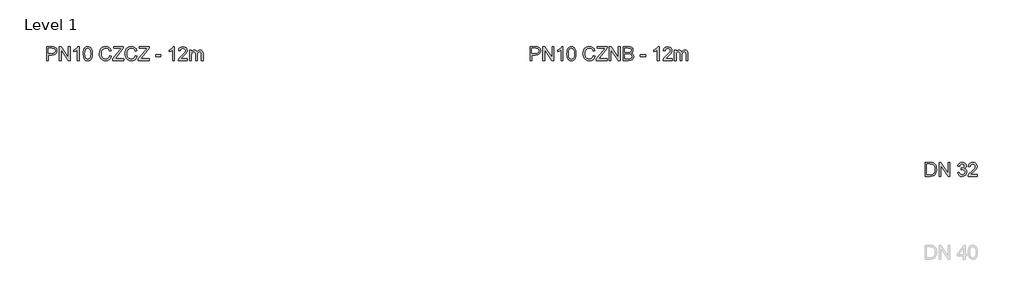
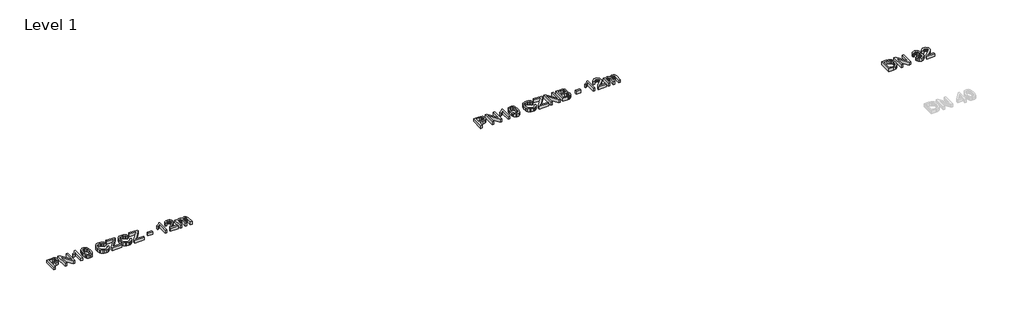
# One storey, part 17 of 17: 3 proxies.
"""IFC4 building model written with IfcOpenShell, lengths in millimetres."""

from ifc_helpers import new_model, si_unit, origin, origin_with_axes, place, context, project, spatial, polyline, outline, extrude, element, save

model = new_model("IFC4")

# Units and contexts
model_context = context("Model", 3, world=origin())
ifc_project = project(units=[si_unit("LENGTHUNIT", "METRE", prefix="MILLI")], contexts=[model_context])

# Site, building, storey
site = spatial("IfcSite", under=ifc_project)
building = spatial("IfcBuilding", under=site)
storey = spatial("IfcBuildingStorey", under=building, Name="Level 1", Elevation=0.0)

# Proxies
placement = place(None, origin())
element("IfcBuildingElementProxy", 1, Name="200mm Arial", ObjectType="200mm Arial", at=placement, inside=storey, context=model_context, shape_type="SweptSolid", body=[
    extrude(outline(polyline([(19829.3512364, 2161.9491293), (19829.3512364, 2362.8617496), (19903.8105522, 2362.8617496), (19933.829723, 2360.9487633), (19958.232562, 2351.5555097), (19967.1046495, 2343.2291138), (19974.0514878, 2332.1313403), (19978.5396481, 2319.0408726), (19980.0357016, 2304.7363944), (19975.995131, 2281.0570566), (19963.8734193, 2261.326319), (19954.1659331, 2253.5578775), (19941.205757, 2248.0089907), (19905.5273348, 2243.5698813), (19854.4653139, 2243.5698813), (19854.4653139, 2161.9491293), (19829.3512364, 2161.9491293)]), holes=[polyline([(19854.4653139, 2268.6839589), (19906.9988628, 2268.6839589), (19929.2679863, 2270.9893527), (19943.9832661, 2277.9055342), (19952.1870346, 2289.0033077), (19954.9216241, 2303.8534776), (19953.3090746, 2315.1351921), (19948.4714264, 2324.6510731), (19941.0095533, 2331.8125092), (19931.5243292, 2336.0308895), (19906.4102516, 2337.7476721), (19854.4653139, 2337.7476721), (19854.4653139, 2268.6839589)])]), origin_with_axes(), (0.0, 0.0, 1.0), 50.0),
    extrude(outline(polyline([(20014.5675582, 2161.9491293), (20014.5675582, 2362.8617496), (20041.4474693, 2362.8617496), (20146.4164653, 2203.6914731), (20146.4164653, 2362.8617496), (20171.5305428, 2362.8617496), (20171.5305428, 2161.9491293), (20144.6506317, 2161.9491293), (20039.6816357, 2321.1684569), (20039.6816357, 2161.9491293), (20014.5675582, 2161.9491293)])), origin_with_axes(), (0.0, 0.0, 1.0), 50.0),
    extrude(outline(polyline([(20300.2401902, 2161.9491293), (20275.1261127, 2161.9491293), (20275.1261127, 2318.5197065), (20251.3364103, 2301.5726092), (20224.8979576, 2288.8929431), (20224.8979576, 2312.6335946), (20261.7106826, 2336.1289913), (20275.181295, 2349.7038369), (20284.0533824, 2362.8617496), (20300.2401902, 2362.8617496), (20300.2401902, 2161.9491293)])), origin_with_axes(), (0.0, 0.0, 1.0), 50.0),
    extrude(outline(polyline([(20359.8861243, 2260.7867587), (20361.7316657, 2292.9457765), (20367.2682897, 2318.5932829), (20376.4408141, 2338.1216855), (20389.1940566, 2351.9233917), (20405.6199877, 2360.1271601), (20425.8105779, 2362.8617496), (20441.2861471, 2361.2430689), (20455.1430356, 2356.3870265), (20466.7313185, 2348.483695), (20475.4010708, 2337.7231466), (20487.1732947, 2307.9982814), (20491.7350314, 2260.7867587), (20489.9078842, 2228.811682), (20484.4264424, 2203.2254892), (20475.3091003, 2183.6786925), (20462.5742519, 2169.821804), (20446.1115327, 2161.5628532), (20425.8105779, 2158.8098696), (20399.7154817, 2163.5923356), (20379.8989049, 2177.9397334), (20371.1433134, 2193.0688805), (20364.8893195, 2211.919767), (20359.8861243, 2260.7867587)]), holes=[polyline([(20385.0002019, 2260.8358096), (20387.9432578, 2221.3314147), (20396.7724257, 2198.4675487), (20409.9180757, 2187.5598476), (20425.8105779, 2183.9239472), (20441.7030801, 2187.5721103), (20454.84873, 2198.5165997), (20463.6778979, 2221.3927284), (20466.6209539, 2260.8358096), (20463.7759998, 2299.4511564), (20455.2411375, 2322.492832), (20442.120013, 2333.9339621), (20425.5162723, 2337.7476721), (20409.7954484, 2334.3876832), (20397.1648332, 2324.3077165), (20388.0413597, 2299.8313011), (20385.0002019, 2260.8358096)])]), origin_with_axes(), (0.0, 0.0, 1.0), 50.0),
    extrude(outline(polyline([(20742.8758068, 2233.3672873), (20767.9898843, 2226.8925642), (20756.4016015, 2197.6275515), (20738.2159682, 2176.2474762), (20714.328164, 2163.1692713), (20685.6333683, 2158.8098696), (20656.5032457, 2162.1085449), (20633.3695996, 2172.0045705), (20615.6376874, 2188.1545901), (20602.7127666, 2210.2152471), (20594.8216978, 2236.1509278), (20592.1913416, 2263.9260184), (20595.1650544, 2293.221688), (20604.0861927, 2318.5197065), (20618.4887729, 2339.016865), (20637.9068108, 2353.9099544), (20660.9362237, 2362.9782456), (20686.1729286, 2366.0010093), (20713.7088959, 2362.0891975), (20736.4746601, 2350.3537618), (20753.7589825, 2331.5182037), (20764.8506246, 2306.3060242), (20739.7365471, 2300.3218105), (20731.0300065, 2318.6362025), (20719.1351554, 2331.1993726), (20703.9048408, 2338.465042), (20685.1919099, 2340.8869318), (20663.6217623, 2338.2013932), (20645.9021129, 2330.1447775), (20632.4560259, 2317.5632133), (20623.7065658, 2301.3028291), (20618.9057058, 2282.9209921), (20617.3054191, 2263.9750693), (20619.2000114, 2240.7739782), (20624.8837882, 2220.7121467), (20634.5713474, 2204.5559957), (20648.4772868, 2193.0719461), (20665.1484726, 2186.2109469), (20683.1317708, 2183.9239472), (20704.0949131, 2187.0386814), (20721.5631765, 2196.3828841), (20734.7517461, 2211.8584534), (20742.8758068, 2233.3672873)])), origin_with_axes(), (0.0, 0.0, 1.0), 50.0),
    extrude(outline(polyline([(20786.8254425, 2161.9491293), (20786.8254425, 2187.9951746), (20889.5871465, 2313.810817), (20909.1094177, 2337.7476721), (20799.3824813, 2337.7476721), (20799.3824813, 2362.8617496), (20940.6491674, 2362.8617496), (20940.6491674, 2337.7476721), (20828.1753787, 2200.061704), (20817.5803773, 2187.0632069), (20943.7884271, 2187.0632069), (20943.7884271, 2161.9491293), (20786.8254425, 2161.9491293)])), origin_with_axes(), (0.0, 0.0, 1.0), 50.0),
    extrude(outline(polyline([(20972.0417643, 2161.9491293), (20972.0417643, 2362.8617496), (20998.9216754, 2362.8617496), (21103.8906714, 2203.6914731), (21103.8906714, 2362.8617496), (21129.0047489, 2362.8617496), (21129.0047489, 2161.9491293), (21102.1248378, 2161.9491293), (20997.1558419, 2321.1684569), (20997.1558419, 2161.9491293), (20972.0417643, 2161.9491293)])), origin_with_axes(), (0.0, 0.0, 1.0), 50.0),
    extrude(outline(polyline([(21172.9543846, 2161.9491293), (21172.9543846, 2362.8617496), (21249.6209924, 2362.8617496), (21270.7067621, 2361.3840903), (21287.1694814, 2356.9511123), (21299.7878338, 2349.4524509), (21309.340503, 2338.7777417), (21315.3553736, 2326.2207029), (21317.3603305, 2313.075053), (21315.6742047, 2300.9778667), (21310.6158272, 2289.6041817), (21302.14841, 2279.6529737), (21290.2351647, 2271.8232186), (21304.4660665, 2264.3920023), (21314.9813602, 2253.0857623), (21321.4744774, 2238.6525253), (21323.6388498, 2221.8403182), (21317.7282125, 2194.8377797), (21303.086509, 2175.6098141), (21281.2343185, 2165.4072201), (21249.0323812, 2161.9491293), (21172.9543846, 2161.9491293)]), holes=[polyline([(21198.0684622, 2187.0632069), (21249.5719415, 2187.0632069), (21268.2112959, 2188.0442255), (21283.9811708, 2193.5134045), (21294.4290194, 2204.6724917), (21298.5247723, 2221.5950635), (21293.7177809, 2241.1173347), (21287.4208674, 2248.1745376), (21278.1441098, 2252.7669312), (21247.1193948, 2256.1269201), (21198.0684622, 2256.1269201), (21198.0684622, 2187.0632069)]), polyline([(21198.0684622, 2281.2409976), (21243.9310842, 2281.2409976), (21270.7128935, 2283.3992387), (21286.8261249, 2292.6943904), (21292.2462529, 2309.0528765), (21287.1940069, 2325.435888), (21272.7239817, 2335.1234472), (21240.448468, 2337.7476721), (21198.0684622, 2337.7476721), (21198.0684622, 2281.2409976)])]), origin_with_axes(), (0.0, 0.0, 1.0), 50.0),
    extrude(outline(polyline([(21420.9559003, 2221.5950635), (21420.9559003, 2246.709141), (21499.4373926, 2246.709141), (21499.4373926, 2221.5950635), (21420.9559003, 2221.5950635)])), origin_with_axes(), (0.0, 0.0, 1.0), 50.0),
    extrude(outline(polyline([(21694.0714935, 2161.9491293), (21668.957416, 2161.9491293), (21668.957416, 2318.5197065), (21645.1677136, 2301.5726092), (21618.7292609, 2288.8929431), (21618.7292609, 2312.6335946), (21655.5419859, 2336.1289913), (21669.0125983, 2349.7038369), (21677.8846857, 2362.8617496), (21694.0714935, 2362.8617496), (21694.0714935, 2161.9491293)])), origin_with_axes(), (0.0, 0.0, 1.0), 50.0),
    extrude(outline(polyline([(21882.4270751, 2187.0632069), (21882.4270751, 2161.9491293), (21750.578168, 2161.9491293), (21753.2759693, 2179.2641086), (21768.5308093, 2205.9232905), (21799.9724572, 2235.0350191), (21843.3334817, 2276.8754646), (21851.4636738, 2291.2964388), (21854.1737378, 2305.3250056), (21851.616958, 2317.9004385), (21843.9466184, 2328.3544185), (21832.1560004, 2335.3993587), (21817.2383855, 2337.7476721), (21801.5727439, 2335.454541), (21789.4019812, 2328.5751477), (21781.5477006, 2317.6490524), (21778.8315052, 2303.2158155), (21753.7174277, 2306.3550752), (21759.8058747, 2330.6475496), (21772.9699188, 2348.3917245), (21792.5228468, 2359.2442434), (21817.7779458, 2362.8617496), (21843.2169857, 2358.8395732), (21862.7331256, 2346.7730437), (21875.1491429, 2328.746826), (21879.2878154, 2306.8455845), (21874.8241805, 2283.0313567), (21859.9862733, 2258.4077885), (21824.0074142, 2223.9985592), (21795.1164149, 2199.8409748), (21783.7856494, 2187.0632069), (21882.4270751, 2187.0632069)])), origin_with_axes(), (0.0, 0.0, 1.0), 50.0),
    extrude(outline(polyline([(21913.819672, 2161.9491293), (21913.819672, 2309.4943349), (21938.9337495, 2309.4943349), (21938.9337495, 2285.2141232), (21946.4875931, 2296.367079), (21956.1996778, 2305.1042764), (21967.7389097, 2310.751265), (21980.7741951, 2312.6335946), (21994.7414482, 2310.7144768), (22005.9373236, 2304.9571236), (22014.3005076, 2295.7416796), (22019.7696866, 2283.4482896), (22028.9238169, 2296.2168605), (22039.3655342, 2305.3372683), (22051.0948385, 2310.809513), (22064.1117297, 2312.6335946), (22082.9902075, 2309.5985681), (22096.9513292, 2300.4934887), (22105.578162, 2285.0731018), (22108.4537729, 2263.0921525), (22108.4537729, 2161.9491293), (22083.3396954, 2161.9491293), (22083.3396954, 2252.3009474), (22081.009776, 2273.2702211), (22072.5730156, 2283.5954424), (22058.2256178, 2287.519517), (22044.6201154, 2285.0056567), (22033.5284732, 2277.4640758), (22026.1524392, 2264.3797395), (22023.6937612, 2245.237613), (22023.6937612, 2161.9491293), (21998.5796837, 2161.9491293), (21998.5796837, 2255.0968505), (21997.1265498, 2269.2970955), (21992.7671481, 2279.4261131), (21985.0968085, 2285.4961661), (21973.7108608, 2287.519517), (21955.1205573, 2282.1239144), (21947.7629174, 2275.4775131), (21942.7597223, 2266.3295141), (21938.9337495, 2236.3593942), (21938.9337495, 2161.9491293), (21913.819672, 2161.9491293)])), origin_with_axes(), (0.0, 0.0, 1.0), 50.0),
])
element("IfcBuildingElementProxy", 2, Name="200mm Arial", ObjectType="200mm Arial", at=placement, inside=storey, context=model_context, shape_type="SweptSolid", body=[
    extrude(outline(polyline([(12837.1993856, 2161.9491293), (12837.1993856, 2362.8617496), (12911.6587014, 2362.8617496), (12941.6778722, 2360.9487633), (12966.0807112, 2351.5555097), (12974.9527987, 2343.2291138), (12981.899637, 2332.1313403), (12986.3877974, 2319.0408726), (12987.8838508, 2304.7363944), (12983.8432802, 2281.0570566), (12971.7215685, 2261.326319), (12962.0140824, 2253.5578775), (12949.0539062, 2248.0089907), (12913.3754841, 2243.5698813), (12862.3134631, 2243.5698813), (12862.3134631, 2161.9491293), (12837.1993856, 2161.9491293)]), holes=[polyline([(12862.3134631, 2268.6839589), (12914.847012, 2268.6839589), (12937.1161355, 2270.9893527), (12951.8314153, 2277.9055342), (12960.0351838, 2289.0033077), (12962.7697733, 2303.8534776), (12961.1572239, 2315.1351921), (12956.3195756, 2324.6510731), (12948.8577025, 2331.8125092), (12939.3724784, 2336.0308895), (12914.2584009, 2337.7476721), (12862.3134631, 2337.7476721), (12862.3134631, 2268.6839589)])]), origin_with_axes(), (0.0, 0.0, 1.0), 50.0),
    extrude(outline(polyline([(13022.4157074, 2161.9491293), (13022.4157074, 2362.8617496), (13049.2956186, 2362.8617496), (13154.2646145, 2203.6914731), (13154.2646145, 2362.8617496), (13179.378692, 2362.8617496), (13179.378692, 2161.9491293), (13152.4987809, 2161.9491293), (13047.529785, 2321.1684569), (13047.529785, 2161.9491293), (13022.4157074, 2161.9491293)])), origin_with_axes(), (0.0, 0.0, 1.0), 50.0),
    extrude(outline(polyline([(13308.0883394, 2161.9491293), (13282.9742619, 2161.9491293), (13282.9742619, 2318.5197065), (13259.1845595, 2301.5726092), (13232.7461068, 2288.8929431), (13232.7461068, 2312.6335946), (13269.5588318, 2336.1289913), (13283.0294442, 2349.7038369), (13291.9015316, 2362.8617496), (13308.0883394, 2362.8617496), (13308.0883394, 2161.9491293)])), origin_with_axes(), (0.0, 0.0, 1.0), 50.0),
    extrude(outline(polyline([(13367.7342736, 2260.7867587), (13369.5798149, 2292.9457765), (13375.1164389, 2318.5932829), (13384.2889634, 2338.1216855), (13397.0422059, 2351.9233917), (13413.4681369, 2360.1271601), (13433.6587271, 2362.8617496), (13449.1342964, 2361.2430689), (13462.9911849, 2356.3870265), (13474.5794677, 2348.483695), (13483.2492201, 2337.7231466), (13495.0214439, 2307.9982814), (13499.5831806, 2260.7867587), (13497.7560334, 2228.811682), (13492.2745917, 2203.2254892), (13483.1572496, 2183.6786925), (13470.4224012, 2169.821804), (13453.9596819, 2161.5628532), (13433.6587271, 2158.8098696), (13407.5636309, 2163.5923356), (13387.7470541, 2177.9397334), (13378.9914626, 2193.0688805), (13372.7374687, 2211.919767), (13367.7342736, 2260.7867587)]), holes=[polyline([(13392.8483511, 2260.8358096), (13395.7914071, 2221.3314147), (13404.620575, 2198.4675487), (13417.7662249, 2187.5598476), (13433.6587271, 2183.9239472), (13449.5512293, 2187.5721103), (13462.6968793, 2198.5165997), (13471.5260472, 2221.3927284), (13474.4691031, 2260.8358096), (13471.624149, 2299.4511564), (13463.0892867, 2322.492832), (13449.9681622, 2333.9339621), (13433.3644215, 2337.7476721), (13417.6435976, 2334.3876832), (13405.0129824, 2324.3077165), (13395.8895089, 2299.8313011), (13392.8483511, 2260.8358096)])]), origin_with_axes(), (0.0, 0.0, 1.0), 50.0),
    extrude(outline(polyline([(13750.723956, 2233.3672873), (13775.8380336, 2226.8925642), (13764.2497507, 2197.6275515), (13746.0641174, 2176.2474762), (13722.1763132, 2163.1692713), (13693.4815176, 2158.8098696), (13664.3513949, 2162.1085449), (13641.2177488, 2172.0045705), (13623.4858366, 2188.1545901), (13610.5609159, 2210.2152471), (13602.6698471, 2236.1509278), (13600.0394908, 2263.9260184), (13603.0132036, 2293.221688), (13611.934342, 2318.5197065), (13626.3369221, 2339.016865), (13645.7549601, 2353.9099544), (13668.784373, 2362.9782456), (13694.0210778, 2366.0010093), (13721.5570452, 2362.0891975), (13744.3228093, 2350.3537618), (13761.6071317, 2331.5182037), (13772.6987739, 2306.3060242), (13747.5846963, 2300.3218105), (13738.8781558, 2318.6362025), (13726.9833046, 2331.1993726), (13711.75299, 2338.465042), (13693.0400592, 2340.8869318), (13671.4699115, 2338.2013932), (13653.7502621, 2330.1447775), (13640.3041752, 2317.5632133), (13631.5547151, 2301.3028291), (13626.753855, 2282.9209921), (13625.1535683, 2263.9750693), (13627.0481606, 2240.7739782), (13632.7319374, 2220.7121467), (13642.4194966, 2204.5559957), (13656.3254361, 2193.0719461), (13672.9966218, 2186.2109469), (13690.97992, 2183.9239472), (13711.9430624, 2187.0386814), (13729.4113258, 2196.3828841), (13742.5998953, 2211.8584534), (13750.723956, 2233.3672873)])), origin_with_axes(), (0.0, 0.0, 1.0), 50.0),
    extrude(outline(polyline([(13794.6735917, 2161.9491293), (13794.6735917, 2187.9951746), (13897.4352957, 2313.810817), (13916.9575669, 2337.7476721), (13807.2306305, 2337.7476721), (13807.2306305, 2362.8617496), (13948.4973166, 2362.8617496), (13948.4973166, 2337.7476721), (13836.023528, 2200.061704), (13825.4285265, 2187.0632069), (13951.6365763, 2187.0632069), (13951.6365763, 2161.9491293), (13794.6735917, 2161.9491293)])), origin_with_axes(), (0.0, 0.0, 1.0), 50.0),
    extrude(outline(polyline([(14121.1565997, 2233.3672873), (14146.2706772, 2226.8925642), (14134.6823944, 2197.6275515), (14116.4967611, 2176.2474762), (14092.6089569, 2163.1692713), (14063.9141613, 2158.8098696), (14034.7840386, 2162.1085449), (14011.6503925, 2172.0045705), (13993.9184803, 2188.1545901), (13980.9935595, 2210.2152471), (13973.1024907, 2236.1509278), (13970.4721345, 2263.9260184), (13973.4458473, 2293.221688), (13982.3669857, 2318.5197065), (13996.7695658, 2339.016865), (14016.1876037, 2353.9099544), (14039.2170166, 2362.9782456), (14064.4537215, 2366.0010093), (14091.9896888, 2362.0891975), (14114.755453, 2350.3537618), (14132.0397754, 2331.5182037), (14143.1314175, 2306.3060242), (14118.01734, 2300.3218105), (14109.3107995, 2318.6362025), (14097.4159483, 2331.1993726), (14082.1856337, 2338.465042), (14063.4727029, 2340.8869318), (14041.9025552, 2338.2013932), (14024.1829058, 2330.1447775), (14010.7368188, 2317.5632133), (14001.9873587, 2301.3028291), (13997.1864987, 2282.9209921), (13995.586212, 2263.9750693), (13997.4808043, 2240.7739782), (14003.1645811, 2220.7121467), (14012.8521403, 2204.5559957), (14026.7580797, 2193.0719461), (14043.4292655, 2186.2109469), (14061.4125637, 2183.9239472), (14082.375706, 2187.0386814), (14099.8439694, 2196.3828841), (14113.032539, 2211.8584534), (14121.1565997, 2233.3672873)])), origin_with_axes(), (0.0, 0.0, 1.0), 50.0),
    extrude(outline(polyline([(14165.1062354, 2161.9491293), (14165.1062354, 2187.9951746), (14267.8679394, 2313.810817), (14287.3902106, 2337.7476721), (14177.6632742, 2337.7476721), (14177.6632742, 2362.8617496), (14318.9299603, 2362.8617496), (14318.9299603, 2337.7476721), (14206.4561716, 2200.061704), (14195.8611702, 2187.0632069), (14322.06922, 2187.0632069), (14322.06922, 2161.9491293), (14165.1062354, 2161.9491293)])), origin_with_axes(), (0.0, 0.0, 1.0), 50.0),
    extrude(outline(polyline([(14413.1077511, 2221.5950635), (14413.1077511, 2246.709141), (14491.5892434, 2246.709141), (14491.5892434, 2221.5950635), (14413.1077511, 2221.5950635)])), origin_with_axes(), (0.0, 0.0, 1.0), 50.0),
    extrude(outline(polyline([(14686.2233443, 2161.9491293), (14661.1092668, 2161.9491293), (14661.1092668, 2318.5197065), (14637.3195644, 2301.5726092), (14610.8811117, 2288.8929431), (14610.8811117, 2312.6335946), (14647.6938367, 2336.1289913), (14661.1644491, 2349.7038369), (14670.0365365, 2362.8617496), (14686.2233443, 2362.8617496), (14686.2233443, 2161.9491293)])), origin_with_axes(), (0.0, 0.0, 1.0), 50.0),
    extrude(outline(polyline([(14874.5789258, 2187.0632069), (14874.5789258, 2161.9491293), (14742.7300188, 2161.9491293), (14745.42782, 2179.2641086), (14760.6826601, 2205.9232905), (14792.124308, 2235.0350191), (14835.4853325, 2276.8754646), (14843.6155246, 2291.2964388), (14846.3255886, 2305.3250056), (14843.7688087, 2317.9004385), (14836.0984691, 2328.3544185), (14824.3078512, 2335.3993587), (14809.3902363, 2337.7476721), (14793.7245946, 2335.454541), (14781.553832, 2328.5751477), (14773.6995514, 2317.6490524), (14770.983356, 2303.2158155), (14745.8692784, 2306.3550752), (14751.9577255, 2330.6475496), (14765.1217695, 2348.3917245), (14784.6746976, 2359.2442434), (14809.9297965, 2362.8617496), (14835.3688365, 2358.8395732), (14854.8849763, 2346.7730437), (14867.3009937, 2328.746826), (14871.4396661, 2306.8455845), (14866.9760313, 2283.0313567), (14852.1381241, 2258.4077885), (14816.159265, 2223.9985592), (14787.2682656, 2199.8409748), (14775.9375002, 2187.0632069), (14874.5789258, 2187.0632069)])), origin_with_axes(), (0.0, 0.0, 1.0), 50.0),
    extrude(outline(polyline([(14905.9715227, 2161.9491293), (14905.9715227, 2309.4943349), (14931.0856003, 2309.4943349), (14931.0856003, 2285.2141232), (14938.6394439, 2296.367079), (14948.3515286, 2305.1042764), (14959.8907605, 2310.751265), (14972.9260459, 2312.6335946), (14986.893299, 2310.7144768), (14998.0891743, 2304.9571236), (15006.4523584, 2295.7416796), (15011.9215374, 2283.4482896), (15021.0756677, 2296.2168605), (15031.517385, 2305.3372683), (15043.2466892, 2310.809513), (15056.2635805, 2312.6335946), (15075.1420582, 2309.5985681), (15089.1031799, 2300.4934887), (15097.7300127, 2285.0731018), (15100.6056237, 2263.0921525), (15100.6056237, 2161.9491293), (15075.4915461, 2161.9491293), (15075.4915461, 2252.3009474), (15073.1616268, 2273.2702211), (15064.7248664, 2283.5954424), (15050.3774686, 2287.519517), (15036.7719661, 2285.0056567), (15025.680324, 2277.4640758), (15018.30429, 2264.3797395), (15015.845612, 2245.237613), (15015.845612, 2161.9491293), (14990.7315344, 2161.9491293), (14990.7315344, 2255.0968505), (14989.2784006, 2269.2970955), (14984.9189989, 2279.4261131), (14977.2486593, 2285.4961661), (14965.8627116, 2287.519517), (14947.2724081, 2282.1239144), (14939.9147682, 2275.4775131), (14934.911573, 2266.3295141), (14931.0856003, 2236.3593942), (14931.0856003, 2161.9491293), (14905.9715227, 2161.9491293)])), origin_with_axes(), (0.0, 0.0, 1.0), 50.0),
])
element("IfcBuildingElementProxy", 3, Name="200mm Arial", ObjectType="200mm Arial", at=placement, inside=storey, context=model_context, shape_type="SweptSolid", body=[
    extrude(outline(polyline([(25539.3076926, 486.050427), (25539.3076926, 686.9630473), (25608.6166605, 686.9630473), (25644.4728923, 684.0690423), (25660.4880218, 678.4894987), (25674.0015538, 669.697119), (25687.8952305, 654.393228), (25697.7912562, 635.3614662), (25703.7141563, 612.9697154), (25705.6884563, 587.5858577), (25700.3419047, 547.0452618), (25686.6076435, 517.7863805), (25668.2625947, 499.563959), (25644.2521631, 489.4839923), (25611.9521239, 486.050427), (25539.3076926, 486.050427)]), holes=[polyline([(25564.4217702, 511.1645046), (25608.8619152, 511.1645046), (25641.1864798, 514.7942736), (25659.8258342, 525.0459185), (25668.5507689, 535.9168315), (25675.1051998, 549.9883178), (25679.207084, 567.3216911), (25680.5743788, 587.9782652), (25677.8949716, 615.3486856), (25669.85675, 635.5576699), (25657.9802929, 649.4390838), (25643.7861793, 657.8267933), (25608.1752021, 661.8489698), (25564.4217702, 661.8489698), (25564.4217702, 511.1645046)])]), origin_with_axes(), (0.0, 0.0, 1.0), 50.0),
    extrude(outline(polyline([(25740.2203129, 486.050427), (25740.2203129, 686.9630473), (25767.100224, 686.9630473), (25872.06922, 527.7927708), (25872.06922, 686.9630473), (25897.1832975, 686.9630473), (25897.1832975, 486.050427), (25870.3033864, 486.050427), (25765.3343905, 645.2697546), (25765.3343905, 486.050427), (25740.2203129, 486.050427)])), origin_with_axes(), (0.0, 0.0, 1.0), 50.0),
    extrude(outline(polyline([(26010.1966465, 539.4178418), (26035.310724, 542.5571015), (26040.9331872, 526.7749639), (26049.1676125, 516.1186488), (26060.4186702, 510.0485959), (26075.0910304, 508.0252449), (26092.3079078, 510.8088853), (26105.6007105, 519.1598066), (26114.0987846, 531.6187435), (26116.931476, 546.7264308), (26114.1233101, 561.0676972), (26105.6988124, 572.6988996), (26092.9455699, 580.4060274), (26077.1511696, 582.97507), (26059.5418847, 580.2282178), (26062.3377879, 605.3422953), (26066.3599644, 605.0479898), (26081.406338, 606.8506115), (26094.8585563, 612.2584769), (26104.3499118, 621.4064758), (26107.5136969, 634.4294984), (26105.2205658, 645.2758859), (26098.3411725, 654.074397), (26087.8442729, 659.9053266), (26074.6986229, 661.8489698), (26061.5284475, 659.8869325), (26050.7617678, 654.0008206), (26042.9013558, 644.190634), (26038.4499837, 630.4563729), (26013.3359061, 633.5956326), (26020.7303343, 656.1467989), (26033.8882469, 672.9835315), (26051.8899392, 683.4681684), (26073.8157062, 686.9630473), (26089.6039751, 685.2401333), (26104.1046571, 680.0713913), (26116.3306021, 671.9166737), (26125.29466, 661.2358331), (26130.7944958, 648.9301804), (26132.6277745, 635.9010264), (26130.8864663, 623.7609206), (26125.662542, 612.7489862), (26117.0295779, 603.3679953), (26105.0611503, 596.12072), (26120.7819742, 589.7686242), (26132.4315707, 578.9528936), (26139.6420578, 564.2621392), (26142.0455535, 546.2849724), (26137.2385621, 521.808557), (26122.8175879, 501.354318), (26101.0512365, 487.521955), (26074.2081136, 482.9111674), (26049.9279019, 486.8475047), (26030.1603761, 498.6565167), (26016.4138522, 516.7195227), (26010.1966465, 539.4178418)])), origin_with_axes(), (0.0, 0.0, 1.0), 50.0),
    extrude(outline(polyline([(26292.7300188, 511.1645046), (26292.7300188, 486.050427), (26160.8811117, 486.050427), (26163.578913, 503.3654063), (26178.833753, 530.0245882), (26210.2754009, 559.1363168), (26253.6364254, 600.9767623), (26261.7666175, 615.3977366), (26264.4766815, 629.4263033), (26261.9199017, 642.0017362), (26254.2495621, 652.4557162), (26242.4589441, 659.5006564), (26227.5413292, 661.8489698), (26211.8756876, 659.5558387), (26199.7049249, 652.6764454), (26191.8506443, 641.7503501), (26189.1344489, 627.3171132), (26164.0203714, 630.4563729), (26170.1088184, 654.7488473), (26183.2728625, 672.4930222), (26202.8257905, 683.3455411), (26228.0808895, 686.9630473), (26253.5199294, 682.9408709), (26273.0360693, 670.8743414), (26285.4520866, 652.8481237), (26289.5907591, 630.9468822), (26285.1271242, 607.1326544), (26270.289217, 582.5090862), (26234.3103579, 548.0998569), (26205.4193586, 523.9422725), (26194.0885931, 511.1645046), (26292.7300188, 511.1645046)])), origin_with_axes(), (0.0, 0.0, 1.0), 50.0),
])

save(model, "model.ifc")
